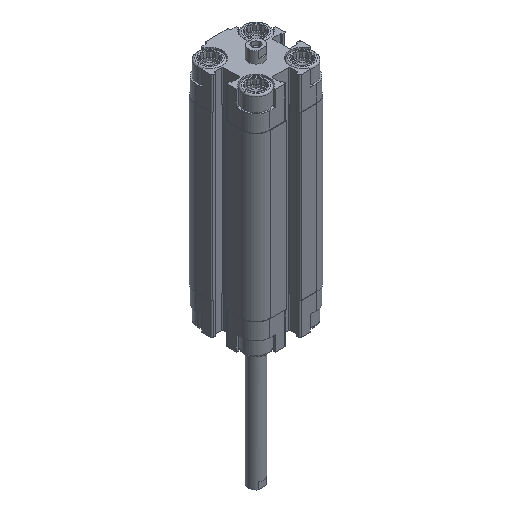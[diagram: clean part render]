
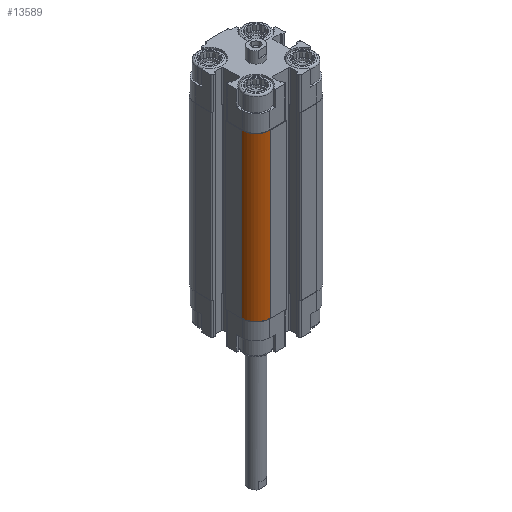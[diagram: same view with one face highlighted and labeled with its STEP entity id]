
A CAD part, isometric view. The second image highlights one B-rep face of the part: STEP entity #13589.
In plain terms, the highlighted cylindrical face has radius 5.5 mm (diameter 11 mm), a partial arc.
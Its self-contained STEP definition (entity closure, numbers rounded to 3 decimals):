
#78 = CARTESIAN_POINT ( 'NONE',  ( -14.5, -9., -75.5 ) ) ;
#333 = VERTEX_POINT ( 'NONE', #78 ) ;
#1019 = EDGE_LOOP ( 'NONE', ( #12134, #11556, #15015, #17364 ) ) ;
#1484 = VECTOR ( 'NONE', #3513, 1000. ) ;
#2150 = DIRECTION ( 'NONE',  ( -1., 0., 0. ) ) ;
#3513 = DIRECTION ( 'NONE',  ( 0., 0., 1. ) ) ;
#3594 = DIRECTION ( 'NONE',  ( 0., 0., -1. ) ) ;
#5434 = CIRCLE ( 'NONE', #10606, 5.5 ) ;
#6384 = CARTESIAN_POINT ( 'NONE',  ( -9., -14.5, -12.5 ) ) ;
#7663 = DIRECTION ( 'NONE',  ( 0., 0., 1. ) ) ;
#8338 = CARTESIAN_POINT ( 'NONE',  ( -9., -9., -12.5 ) ) ;
#8512 = EDGE_CURVE ( 'NONE', #333, #16086, #5434, .T. ) ;
#8733 = CARTESIAN_POINT ( 'NONE',  ( -9., -14.5, -75.5 ) ) ;
#8802 = CARTESIAN_POINT ( 'NONE',  ( -14.5, -9., -12.5 ) ) ;
#8877 = CARTESIAN_POINT ( 'NONE',  ( -9., -9., -75.5 ) ) ;
#9016 = LINE ( 'NONE', #14520, #9860 ) ;
#9860 = VECTOR ( 'NONE', #7663, 1000. ) ;
#10493 = EDGE_CURVE ( 'NONE', #333, #11775, #15905, .T. ) ;
#10606 = AXIS2_PLACEMENT_3D ( 'NONE', #11420, #14021, #13041 ) ;
#10928 = CIRCLE ( 'NONE', #14085, 5.5 ) ;
#11420 = CARTESIAN_POINT ( 'NONE',  ( -9., -9., -75.5 ) ) ;
#11556 = ORIENTED_EDGE ( 'NONE', *, *, #10493, .F. ) ;
#11687 = CYLINDRICAL_SURFACE ( 'NONE', #14622, 5.5 ) ;
#11775 = VERTEX_POINT ( 'NONE', #8802 ) ;
#12072 = EDGE_CURVE ( 'NONE', #11775, #14993, #10928, .T. ) ;
#12134 = ORIENTED_EDGE ( 'NONE', *, *, #12072, .F. ) ;
#12503 = DIRECTION ( 'NONE',  ( -1., 0., 0. ) ) ;
#13041 = DIRECTION ( 'NONE',  ( -1., 0., 0. ) ) ;
#13589 = ADVANCED_FACE ( 'NONE', ( #15892 ), #11687, .T. ) ;
#13837 = DIRECTION ( 'NONE',  ( 0., 0., 1. ) ) ;
#14021 = DIRECTION ( 'NONE',  ( 0., 0., 1. ) ) ;
#14085 = AXIS2_PLACEMENT_3D ( 'NONE', #8338, #13837, #12503 ) ;
#14520 = CARTESIAN_POINT ( 'NONE',  ( -9., -14.5, -75.5 ) ) ;
#14622 = AXIS2_PLACEMENT_3D ( 'NONE', #8877, #3594, #2150 ) ;
#14993 = VERTEX_POINT ( 'NONE', #6384 ) ;
#15015 = ORIENTED_EDGE ( 'NONE', *, *, #8512, .T. ) ;
#15892 = FACE_OUTER_BOUND ( 'NONE', #1019, .T. ) ;
#15905 = LINE ( 'NONE', #17244, #1484 ) ;
#16086 = VERTEX_POINT ( 'NONE', #8733 ) ;
#16982 = EDGE_CURVE ( 'NONE', #16086, #14993, #9016, .T. ) ;
#17244 = CARTESIAN_POINT ( 'NONE',  ( -14.5, -9., -75.5 ) ) ;
#17364 = ORIENTED_EDGE ( 'NONE', *, *, #16982, .T. ) ;
